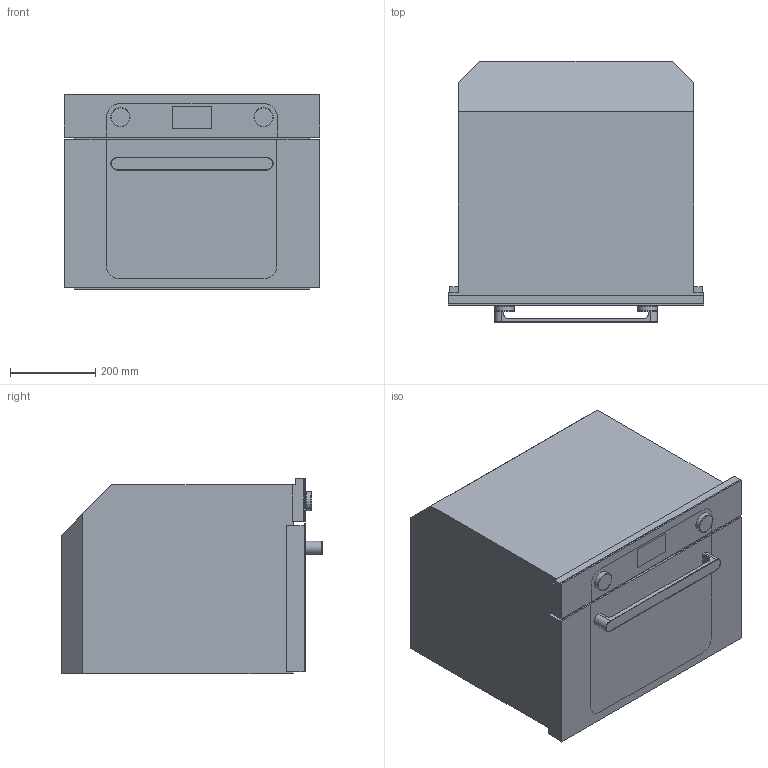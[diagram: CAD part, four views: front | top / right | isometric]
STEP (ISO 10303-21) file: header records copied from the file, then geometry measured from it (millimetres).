
FILE_DESCRIPTION(/* description */ (''),/* implementation_level */ '2;1');
FILE_NAME(/* name */ 'Forno_Musa_45_cm_2_manopole_display.stp',/* time_stamp */ '2026-06-16T11:30:24+02:00',/* author */ (''),/* organization */ (''),/* preprocessor_version */ 'ST-DEVELOPER v20',/* originating_system */ 'SIEMENS PLM Software NX2412.4001',/* authorisation */ '');
FILE_SCHEMA (('AUTOMOTIVE_DESIGN { 1 0 10303 214 3 1 1 1 }'));
Length unit declared in the file: millimetre
Products named in the file (1): Musa45
Bounding box: 597 x 612.33 x 456.55 mm (x, y, z)
Volume: 135379218.1 mm3; surface area: 2261066.6 mm2
Topology: 12 solids, 12 shells, 118 faces, 267 edges, 178 vertices
Faces by surface type: plane 94, cylinder 24
Full cylindrical faces by diameter (mm): 25 x2, 43 x4, 45 x2
Entity records: 3325 total; most frequent: CARTESIAN_POINT 559, DIRECTION 544, ORIENTED_EDGE 518, EDGE_CURVE 259, LINE 210, VECTOR 210, VERTEX_POINT 178, AXIS2_PLACEMENT_3D 167
